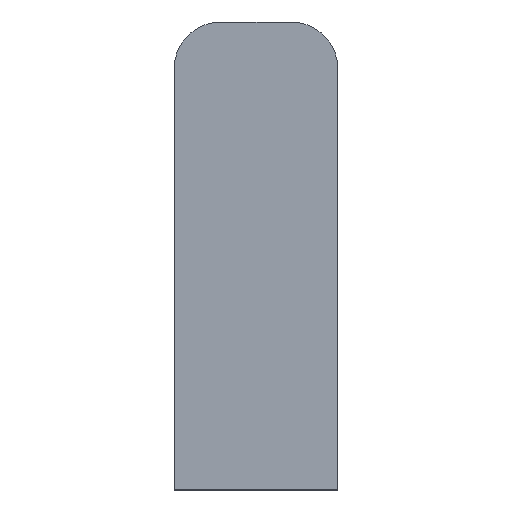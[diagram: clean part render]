
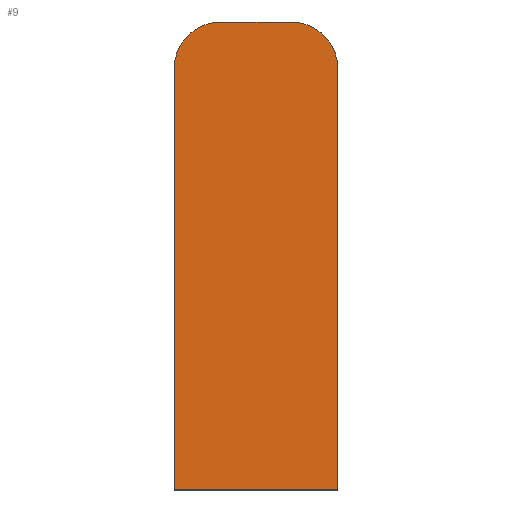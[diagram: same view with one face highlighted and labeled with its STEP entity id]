
A CAD part, front view. The second image highlights one B-rep face of the part: STEP entity #9.
In plain terms, the highlighted planar face has unit normal (0, -1, 0).
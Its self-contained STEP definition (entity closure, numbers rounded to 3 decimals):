
#9 = ADVANCED_FACE ( 'NONE', ( #67 ), #183, .F. ) ;
#26 = EDGE_LOOP ( 'NONE', ( #51, #52, #48, #40, #41, #50 ) ) ;
#36 = LINE ( 'NONE', #210, #75 ) ;
#40 = ORIENTED_EDGE ( 'NONE', *, *, #132, .T. ) ;
#41 = ORIENTED_EDGE ( 'NONE', *, *, #125, .T. ) ;
#48 = ORIENTED_EDGE ( 'NONE', *, *, #133, .T. ) ;
#50 = ORIENTED_EDGE ( 'NONE', *, *, #129, .T. ) ;
#51 = ORIENTED_EDGE ( 'NONE', *, *, #136, .T. ) ;
#52 = ORIENTED_EDGE ( 'NONE', *, *, #151, .T. ) ;
#59 = LINE ( 'NONE', #228, #72 ) ;
#60 = LINE ( 'NONE', #214, #61 ) ;
#61 = VECTOR ( 'NONE', #215, 1000. ) ;
#67 = FACE_OUTER_BOUND ( 'NONE', #26, .T. ) ;
#72 = VECTOR ( 'NONE', #227, 1000. ) ;
#75 = VECTOR ( 'NONE', #211, 1000. ) ;
#83 = CIRCLE ( 'NONE', #144, 3. ) ;
#98 = VECTOR ( 'NONE', #242, 1000. ) ;
#102 = CIRCLE ( 'NONE', #130, 3. ) ;
#103 = LINE ( 'NONE', #241, #98 ) ;
#125 = EDGE_CURVE ( 'NONE', #239, #230, #36, .T. ) ;
#129 = EDGE_CURVE ( 'NONE', #230, #162, #60, .T. ) ;
#130 = AXIS2_PLACEMENT_3D ( 'NONE', #219, #220, #221 ) ;
#132 = EDGE_CURVE ( 'NONE', #223, #239, #102, .T. ) ;
#133 = EDGE_CURVE ( 'NONE', #164, #223, #59, .T. ) ;
#134 = AXIS2_PLACEMENT_3D ( 'NONE', #186, #190, #191 ) ;
#136 = EDGE_CURVE ( 'NONE', #162, #159, #103, .T. ) ;
#144 = AXIS2_PLACEMENT_3D ( 'NONE', #224, #234, #235 ) ;
#151 = EDGE_CURVE ( 'NONE', #159, #164, #83, .T. ) ;
#159 = VERTEX_POINT ( 'NONE', #237 ) ;
#162 = VERTEX_POINT ( 'NONE', #247 ) ;
#164 = VERTEX_POINT ( 'NONE', #248 ) ;
#183 = PLANE ( 'NONE',  #134 ) ;
#186 = CARTESIAN_POINT ( 'NONE',  ( 0., 0., -1.5 ) ) ;
#190 = DIRECTION ( 'NONE',  ( 0., 1., 0. ) ) ;
#191 = DIRECTION ( 'NONE',  ( -1., 0., 0. ) ) ;
#210 = CARTESIAN_POINT ( 'NONE',  ( -5.25, 0., -16.5 ) ) ;
#211 = DIRECTION ( 'NONE',  ( 0., 0., -1. ) ) ;
#214 = CARTESIAN_POINT ( 'NONE',  ( 5.25, 0., -16.5 ) ) ;
#215 = DIRECTION ( 'NONE',  ( 1., 0., 0. ) ) ;
#219 = CARTESIAN_POINT ( 'NONE',  ( -2.25, 0., 10.5 ) ) ;
#220 = DIRECTION ( 'NONE',  ( 0., -1., 0. ) ) ;
#221 = DIRECTION ( 'NONE',  ( -1., 0., 0. ) ) ;
#223 = VERTEX_POINT ( 'NONE', #249 ) ;
#224 = CARTESIAN_POINT ( 'NONE',  ( 2.25, 0., 10.5 ) ) ;
#227 = DIRECTION ( 'NONE',  ( -1., 0., 0. ) ) ;
#228 = CARTESIAN_POINT ( 'NONE',  ( 2.25, 0., 13.5 ) ) ;
#230 = VERTEX_POINT ( 'NONE', #250 ) ;
#234 = DIRECTION ( 'NONE',  ( 0., -1., 0. ) ) ;
#235 = DIRECTION ( 'NONE',  ( -1., 0., 0. ) ) ;
#237 = CARTESIAN_POINT ( 'NONE',  ( 5.25, 0., 10.5 ) ) ;
#239 = VERTEX_POINT ( 'NONE', #252 ) ;
#241 = CARTESIAN_POINT ( 'NONE',  ( 5.25, 0., -16.5 ) ) ;
#242 = DIRECTION ( 'NONE',  ( 0., 0., 1. ) ) ;
#247 = CARTESIAN_POINT ( 'NONE',  ( 5.25, 0., -16.5 ) ) ;
#248 = CARTESIAN_POINT ( 'NONE',  ( 2.25, 0., 13.5 ) ) ;
#249 = CARTESIAN_POINT ( 'NONE',  ( -2.25, 0., 13.5 ) ) ;
#250 = CARTESIAN_POINT ( 'NONE',  ( -5.25, 0., -16.5 ) ) ;
#252 = CARTESIAN_POINT ( 'NONE',  ( -5.25, 0., 10.5 ) ) ;
